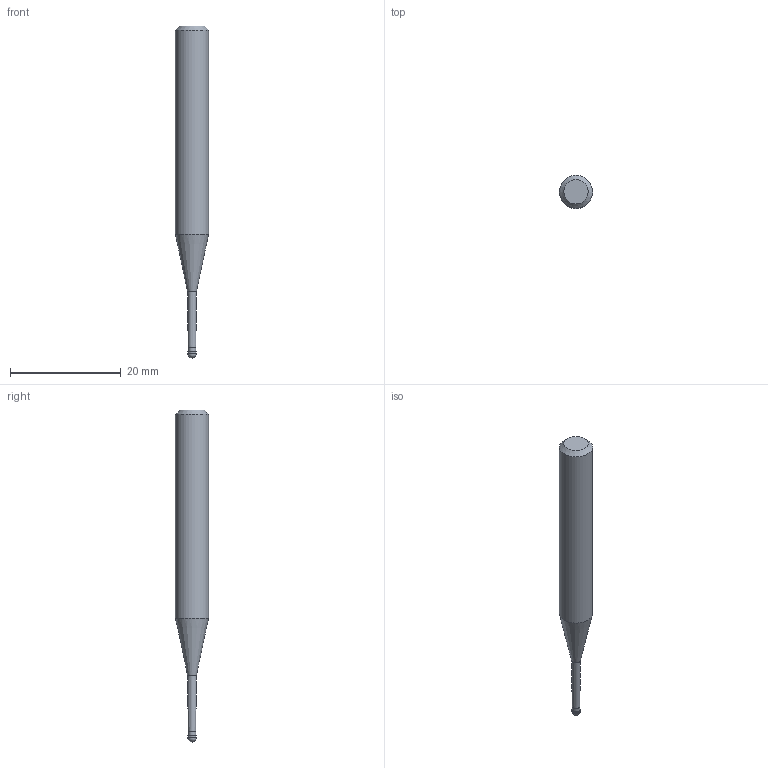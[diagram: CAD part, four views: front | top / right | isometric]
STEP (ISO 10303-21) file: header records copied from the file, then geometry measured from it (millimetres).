
FILE_DESCRIPTION((''),'2;1');
FILE_NAME('C:\Users\nsx150\AppData\Local\Temp\Mastercam 2021\E0ENTZRV18\TEMP.step','2021-09-02T09:56:18',(''),(''),'STEP Write','Mastercam 2021 ... CNC Software, Inc.','');
FILE_SCHEMA(('AUTOMOTIVE_DESIGN'));
Length unit declared in the file: millimetre
Products named in the file (1): None
Bounding box: 6 x 6 x 60 mm (x, y, z)
Volume: 1208.5 mm3; surface area: 913.1 mm2
Topology: 2 solids, 2 shells, 10 faces, 16 edges, 9 vertices
Faces by surface type: plane 3, cylinder 3, cone 3, sphere 1
Full cylindrical faces by diameter (mm): 1.39 x1, 1.5 x1, 6 x1
Entity records: 232 total; most frequent: DIRECTION 40, CARTESIAN_POINT 28, AXIS2_PLACEMENT_3D 20, ORIENTED_EDGE 16, EDGE_LOOP 16, STYLED_ITEM 13, ADVANCED_FACE 10, FACE_BOUND 9
